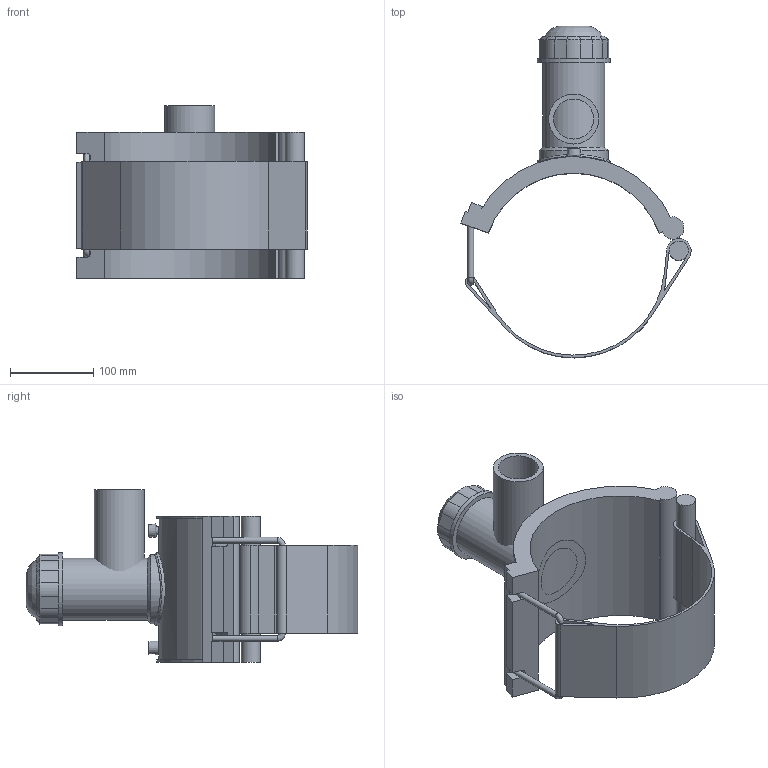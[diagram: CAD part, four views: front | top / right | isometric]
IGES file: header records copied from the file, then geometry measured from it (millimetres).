
Global section: file name: 5963BBP3080020.ipt; native system: Autodesk Inventor 2019; preprocessor: unknown; author: KIM; date: 20210830.101607; units: inch
Bounding box: 276.84 x 399.02 x 207.9 mm (x, y, z)
Volume: 1896054.6 mm3; surface area: 386534.6 mm2
Topology: 4 solids, 4 shells, 124 faces, 304 edges, 194 vertices
Faces by surface type: plane 69, cylinder 28, revolution 15, cone 11, bspline 1
Full cylindrical faces by diameter (mm): 4 x2, 6.998 x2, 23.048 x1, 60.1 x1, 74.358 x1, 83.106 x1, 87.48 x2
